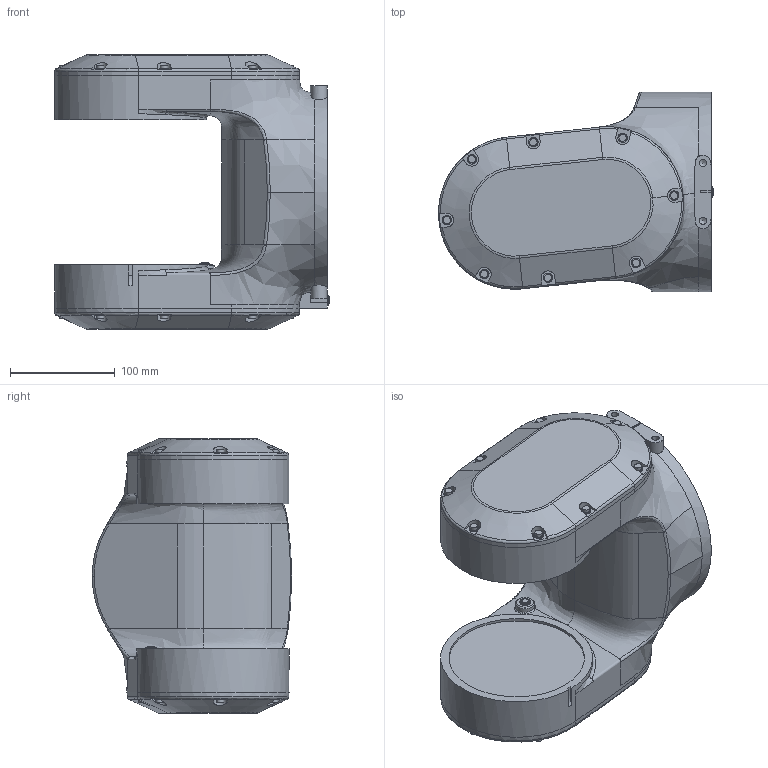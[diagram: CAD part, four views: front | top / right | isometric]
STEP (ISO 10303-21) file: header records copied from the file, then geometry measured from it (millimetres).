
FILE_DESCRIPTION (( 'STEP AP203' ), '1' );
FILE_NAME ('IRB1200GEN2_7kg-710_BTM_OC_00_Link01_CAD.STEP', '2025-06-16T02:55:56', ( '' ), ( '' ), 'SwSTEP 2.0', 'SolidWorks 2022', '' );
FILE_SCHEMA (( 'CONFIG_CONTROL_DESIGN' ));
Length unit declared in the file: millimetre
Products named in the file (1): IRB1200GEN2_7kg-710_BTM_OC_00_Link01_CAD
Bounding box: 261.99 x 190 x 261.48 mm (x, y, z)
Surface area: 262210.7 mm2 (no closed solid volume)
Topology: 0 solids, 1 shells, 298 faces, 727 edges, 459 vertices
Faces by surface type: plane 130, cylinder 82, bspline 51, cone 19, torus 16
Full cylindrical faces by diameter (mm): 6.8 x4, 7 x16, 9 x16, 9.9 x2, 18 x1, 129 x1, 132 x1, 145 x2, 180 x1
Entity records: 25197 total; most frequent: CARTESIAN_POINT 18961, ORIENTED_EDGE 1284, DIRECTION 1145, EDGE_CURVE 642, AXIS2_PLACEMENT_3D 462, VERTEX_POINT 438, EDGE_LOOP 390, FACE_OUTER_BOUND 346
